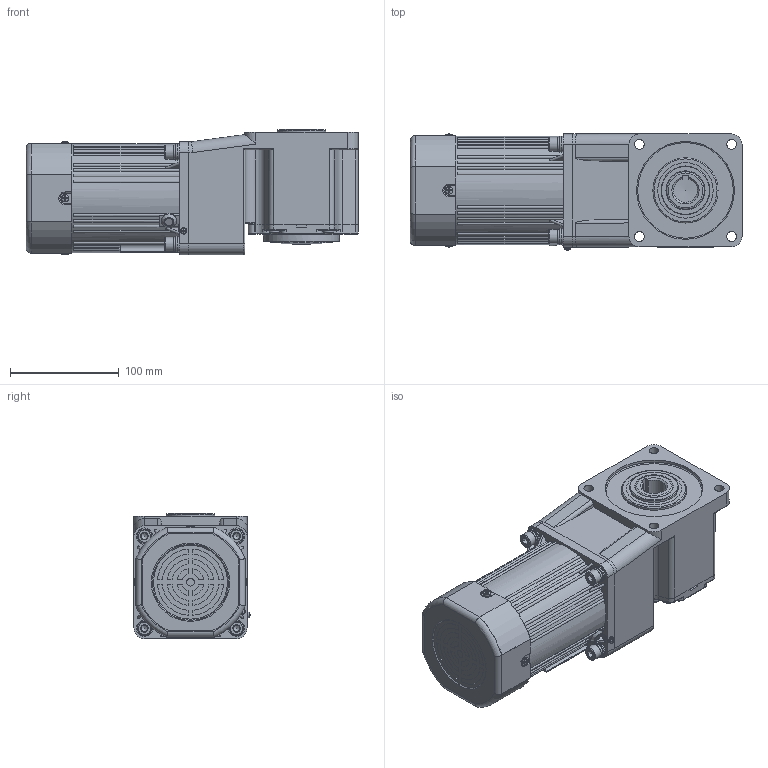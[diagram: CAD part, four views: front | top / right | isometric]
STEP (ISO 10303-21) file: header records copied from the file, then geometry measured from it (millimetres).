
FILE_DESCRIPTION(/* description */ (''),/* implementation_level */ '2;1');
FILE_NAME(/* name */ '100+直角中空-调速风叶-120-140W 新版.stp',/* time_stamp */ '2025-03-25T15:06:35+08:00',/* author */ (''),/* organization */ (''),/* preprocessor_version */ 'ST-DEVELOPER v18.102',/* originating_system */ 'SIEMENS PLM Software NX 2027',/* authorisation */ '');
FILE_SCHEMA (('AP203_CONFIGURATION_CONTROLLED_3D_DESIGN_OF_MECHANICAL_PARTS_AND_ASSEMBLIES_MIM_LF { 1 0 10303 403 2 1 2}'));
Products named in the file (1): 6RK120-140CC·RF_6GU3-750K-C·15L_stp_objects
Bounding box: 305.5 x 106.83 x 115.53 mm (x, y, z)
Volume: 2910366.1 mm3; surface area: 396279.4 mm2
Topology: 24 solids, 24 shells, 1826 faces, 4736 edges, 3064 vertices
Faces by surface type: plane 774, cylinder 572, bspline 215, cone 121, torus 118, sphere 26
Full cylindrical faces by diameter (mm): 2.5 x2, 2.6 x2, 2.7 x1, 3 x15, 3.2 x2, 3.3 x2, 3.5 x6, 3.6 x4, 4 x4, 4.55 x2, 5.1 x2, 5.15 x2, 6 x10, 6.8 x12, 7 x2, 7.5 x1, 7.76 x4, 8.4 x4, 9 x13, 9.3 x1, 9.5 x4, 13 x4, 14 x8, 15 x5, 15.5 x2, 19 x2, 21 x1, 28 x1, 30 x3, 35 x1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
Entity records: 55771 total; most frequent: CARTESIAN_POINT 13750, ORIENTED_EDGE 8514, DIRECTION 8291, EDGE_CURVE 4257, AXIS2_PLACEMENT_3D 3303, VERTEX_POINT 2898, EDGE_LOOP 2318, ADVANCED_FACE 1825
